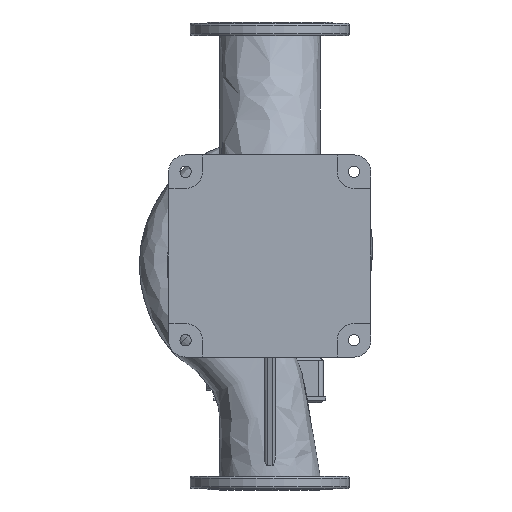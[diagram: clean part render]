
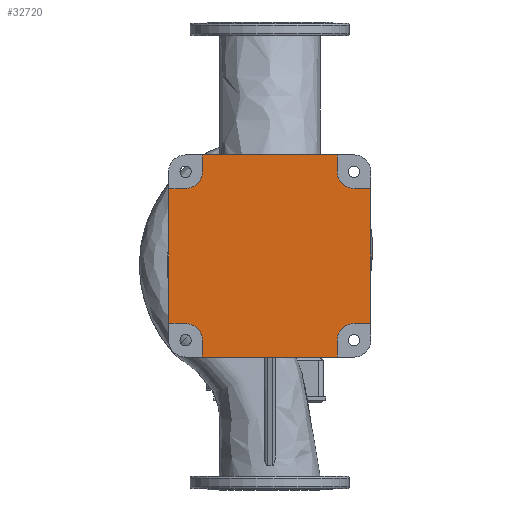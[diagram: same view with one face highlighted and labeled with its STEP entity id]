
A CAD part, front view. The second image highlights one B-rep face of the part: STEP entity #32720.
In plain terms, the highlighted planar face has unit normal (0, -1, 0).
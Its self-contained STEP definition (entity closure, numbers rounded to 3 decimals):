
#49 = CIRCLE ( 'NONE', #4899, 36. ) ;
#234 = DIRECTION ( 'NONE',  ( 0., 1., 0. ) ) ;
#629 = LINE ( 'NONE', #18377, #28319 ) ;
#681 = DIRECTION ( 'NONE',  ( 0., 1., 0. ) ) ;
#996 = EDGE_CURVE ( 'NONE', #7320, #15734, #23387, .T. ) ;
#2291 = LINE ( 'NONE', #2621, #23930 ) ;
#2389 = ORIENTED_EDGE ( 'NONE', *, *, #6621, .T. ) ;
#2430 = DIRECTION ( 'NONE',  ( 0., 0., 1. ) ) ;
#2621 = CARTESIAN_POINT ( 'NONE',  ( -180., -265., -144. ) ) ;
#3257 = ORIENTED_EDGE ( 'NONE', *, *, #11746, .T. ) ;
#3394 = CARTESIAN_POINT ( 'NONE',  ( 144., -265., -180. ) ) ;
#3505 = CARTESIAN_POINT ( 'NONE',  ( -144., -265., -180. ) ) ;
#3565 = DIRECTION ( 'NONE',  ( 0., 0., 1. ) ) ;
#3579 = CARTESIAN_POINT ( 'NONE',  ( -144., -265., -216. ) ) ;
#3980 = CARTESIAN_POINT ( 'NONE',  ( -180., -265., -180. ) ) ;
#3990 = VECTOR ( 'NONE', #14196, 1000. ) ;
#3994 = AXIS2_PLACEMENT_3D ( 'NONE', #30028, #22282, #17198 ) ;
#4230 = VECTOR ( 'NONE', #25239, 1000. ) ;
#4580 = DIRECTION ( 'NONE',  ( -1., 0., 0. ) ) ;
#4586 = ORIENTED_EDGE ( 'NONE', *, *, #22892, .T. ) ;
#4830 = AXIS2_PLACEMENT_3D ( 'NONE', #3980, #25083, #7154 ) ;
#4899 = AXIS2_PLACEMENT_3D ( 'NONE', #32465, #26740, #8649 ) ;
#5279 = CARTESIAN_POINT ( 'NONE',  ( -144., -265., -180. ) ) ;
#5547 = EDGE_CURVE ( 'NONE', #24412, #7320, #17183, .T. ) ;
#5743 = CARTESIAN_POINT ( 'NONE',  ( 144., -265., -216. ) ) ;
#6110 = CARTESIAN_POINT ( 'NONE',  ( -144., -265., 180. ) ) ;
#6621 = EDGE_CURVE ( 'NONE', #15734, #16981, #2291, .T. ) ;
#6664 = VECTOR ( 'NONE', #2430, 1000. ) ;
#6774 = CARTESIAN_POINT ( 'NONE',  ( 216., -265., -144. ) ) ;
#6802 = LINE ( 'NONE', #17605, #7011 ) ;
#7009 = CARTESIAN_POINT ( 'NONE',  ( -144., -265., 180. ) ) ;
#7011 = VECTOR ( 'NONE', #25379, 1000. ) ;
#7154 = DIRECTION ( 'NONE',  ( 0., 0., 1. ) ) ;
#7320 = VERTEX_POINT ( 'NONE', #16764 ) ;
#7614 = ORIENTED_EDGE ( 'NONE', *, *, #8466, .T. ) ;
#7741 = VERTEX_POINT ( 'NONE', #26860 ) ;
#8299 = VECTOR ( 'NONE', #9409, 1000. ) ;
#8403 = DIRECTION ( 'NONE',  ( 0., 0., 1. ) ) ;
#8466 = EDGE_CURVE ( 'NONE', #19867, #24412, #49, .T. ) ;
#8542 = LINE ( 'NONE', #25965, #31678 ) ;
#8649 = DIRECTION ( 'NONE',  ( 0., 0., 1. ) ) ;
#8723 = VERTEX_POINT ( 'NONE', #3394 ) ;
#8933 = CARTESIAN_POINT ( 'NONE',  ( 180., -265., -144. ) ) ;
#9359 = VERTEX_POINT ( 'NONE', #9721 ) ;
#9409 = DIRECTION ( 'NONE',  ( -1., 0., 0. ) ) ;
#9472 = ORIENTED_EDGE ( 'NONE', *, *, #23319, .T. ) ;
#9721 = CARTESIAN_POINT ( 'NONE',  ( -144., -265., 216. ) ) ;
#10086 = CARTESIAN_POINT ( 'NONE',  ( 180., -265., 144. ) ) ;
#10343 = ORIENTED_EDGE ( 'NONE', *, *, #24554, .T. ) ;
#10359 = VERTEX_POINT ( 'NONE', #8933 ) ;
#11177 = CARTESIAN_POINT ( 'NONE',  ( -180., -265., 144. ) ) ;
#11304 = ORIENTED_EDGE ( 'NONE', *, *, #15756, .T. ) ;
#11746 = EDGE_CURVE ( 'NONE', #16981, #27821, #28823, .T. ) ;
#11883 = ORIENTED_EDGE ( 'NONE', *, *, #5547, .T. ) ;
#12309 = EDGE_CURVE ( 'NONE', #9359, #19867, #30145, .T. ) ;
#12506 = ORIENTED_EDGE ( 'NONE', *, *, #14248, .T. ) ;
#12805 = DIRECTION ( 'NONE',  ( 0., 0., 1. ) ) ;
#14023 = CARTESIAN_POINT ( 'NONE',  ( 180., -265., 180. ) ) ;
#14196 = DIRECTION ( 'NONE',  ( 1., 0., 0. ) ) ;
#14248 = EDGE_CURVE ( 'NONE', #30617, #8723, #20169, .T. ) ;
#14664 = CARTESIAN_POINT ( 'NONE',  ( 144., -265., 180. ) ) ;
#14978 = EDGE_CURVE ( 'NONE', #10359, #19864, #21481, .T. ) ;
#15279 = CARTESIAN_POINT ( 'NONE',  ( -216., -265., -144. ) ) ;
#15734 = VERTEX_POINT ( 'NONE', #23383 ) ;
#15756 = EDGE_CURVE ( 'NONE', #8723, #10359, #27215, .T. ) ;
#15897 = ORIENTED_EDGE ( 'NONE', *, *, #21805, .T. ) ;
#15947 = VECTOR ( 'NONE', #4580, 1000. ) ;
#16334 = CARTESIAN_POINT ( 'NONE',  ( -180., -265., -144. ) ) ;
#16519 = VERTEX_POINT ( 'NONE', #26048 ) ;
#16528 = VERTEX_POINT ( 'NONE', #3579 ) ;
#16764 = CARTESIAN_POINT ( 'NONE',  ( -216., -265., 144. ) ) ;
#16861 = VERTEX_POINT ( 'NONE', #10086 ) ;
#16981 = VERTEX_POINT ( 'NONE', #16334 ) ;
#17032 = CARTESIAN_POINT ( 'NONE',  ( -180., -265., 144. ) ) ;
#17183 = LINE ( 'NONE', #17032, #8299 ) ;
#17198 = DIRECTION ( 'NONE',  ( 0., 0., 1. ) ) ;
#17605 = CARTESIAN_POINT ( 'NONE',  ( 180., -265., 144. ) ) ;
#17751 = LINE ( 'NONE', #19789, #15947 ) ;
#17788 = EDGE_CURVE ( 'NONE', #16528, #30617, #8542, .T. ) ;
#18025 = CARTESIAN_POINT ( 'NONE',  ( 144., -265., 180. ) ) ;
#18216 = ORIENTED_EDGE ( 'NONE', *, *, #17788, .T. ) ;
#18377 = CARTESIAN_POINT ( 'NONE',  ( 216., -265., 144. ) ) ;
#19595 = AXIS2_PLACEMENT_3D ( 'NONE', #14023, #681, #3565 ) ;
#19664 = VECTOR ( 'NONE', #21962, 1000. ) ;
#19789 = CARTESIAN_POINT ( 'NONE',  ( -144., -265., 216. ) ) ;
#19864 = VERTEX_POINT ( 'NONE', #6774 ) ;
#19867 = VERTEX_POINT ( 'NONE', #6110 ) ;
#20169 = LINE ( 'NONE', #30121, #6664 ) ;
#20812 = ORIENTED_EDGE ( 'NONE', *, *, #12309, .T. ) ;
#21135 = ORIENTED_EDGE ( 'NONE', *, *, #24942, .T. ) ;
#21481 = LINE ( 'NONE', #25120, #3990 ) ;
#21805 = EDGE_CURVE ( 'NONE', #32382, #16519, #27837, .T. ) ;
#21962 = DIRECTION ( 'NONE',  ( 0., 0., -1. ) ) ;
#22282 = DIRECTION ( 'NONE',  ( 0., 1., 0. ) ) ;
#22892 = EDGE_CURVE ( 'NONE', #27821, #16528, #28426, .T. ) ;
#23319 = EDGE_CURVE ( 'NONE', #19864, #7741, #629, .T. ) ;
#23383 = CARTESIAN_POINT ( 'NONE',  ( -216., -265., -144. ) ) ;
#23387 = LINE ( 'NONE', #15279, #4230 ) ;
#23556 = DIRECTION ( 'NONE',  ( 0., 0., 1. ) ) ;
#23930 = VECTOR ( 'NONE', #33214, 1000. ) ;
#24412 = VERTEX_POINT ( 'NONE', #11177 ) ;
#24554 = EDGE_CURVE ( 'NONE', #16519, #9359, #17751, .T. ) ;
#24591 = FACE_OUTER_BOUND ( 'NONE', #32624, .T. ) ;
#24942 = EDGE_CURVE ( 'NONE', #16861, #32382, #24962, .T. ) ;
#24956 = ORIENTED_EDGE ( 'NONE', *, *, #26578, .T. ) ;
#24962 = CIRCLE ( 'NONE', #19595, 36. ) ;
#25083 = DIRECTION ( 'NONE',  ( 0., 1., 0. ) ) ;
#25120 = CARTESIAN_POINT ( 'NONE',  ( 180., -265., -144. ) ) ;
#25239 = DIRECTION ( 'NONE',  ( 0., 0., -1. ) ) ;
#25253 = DIRECTION ( 'NONE',  ( 0., 0., -1. ) ) ;
#25379 = DIRECTION ( 'NONE',  ( -1., 0., 0. ) ) ;
#25965 = CARTESIAN_POINT ( 'NONE',  ( 144., -265., -216. ) ) ;
#26048 = CARTESIAN_POINT ( 'NONE',  ( 144., -265., 216. ) ) ;
#26130 = DIRECTION ( 'NONE',  ( 1., 0., 0. ) ) ;
#26578 = EDGE_CURVE ( 'NONE', #7741, #16861, #6802, .T. ) ;
#26740 = DIRECTION ( 'NONE',  ( 0., 1., 0. ) ) ;
#26860 = CARTESIAN_POINT ( 'NONE',  ( 216., -265., 144. ) ) ;
#27108 = ORIENTED_EDGE ( 'NONE', *, *, #14978, .T. ) ;
#27215 = CIRCLE ( 'NONE', #28296, 36. ) ;
#27821 = VERTEX_POINT ( 'NONE', #3505 ) ;
#27837 = LINE ( 'NONE', #14664, #30378 ) ;
#28296 = AXIS2_PLACEMENT_3D ( 'NONE', #31810, #234, #23556 ) ;
#28319 = VECTOR ( 'NONE', #8403, 1000. ) ;
#28426 = LINE ( 'NONE', #5279, #19664 ) ;
#28823 = CIRCLE ( 'NONE', #3994, 36. ) ;
#30028 = CARTESIAN_POINT ( 'NONE',  ( -180., -265., -180. ) ) ;
#30121 = CARTESIAN_POINT ( 'NONE',  ( 144., -265., -180. ) ) ;
#30145 = LINE ( 'NONE', #7009, #31457 ) ;
#30378 = VECTOR ( 'NONE', #12805, 1000. ) ;
#30617 = VERTEX_POINT ( 'NONE', #5743 ) ;
#31457 = VECTOR ( 'NONE', #25253, 1000. ) ;
#31678 = VECTOR ( 'NONE', #26130, 1000. ) ;
#31810 = CARTESIAN_POINT ( 'NONE',  ( 180., -265., -180. ) ) ;
#32192 = PLANE ( 'NONE',  #4830 ) ;
#32382 = VERTEX_POINT ( 'NONE', #18025 ) ;
#32465 = CARTESIAN_POINT ( 'NONE',  ( -180., -265., 180. ) ) ;
#32496 = ORIENTED_EDGE ( 'NONE', *, *, #996, .T. ) ;
#32624 = EDGE_LOOP ( 'NONE', ( #3257, #4586, #18216, #12506, #11304, #27108, #9472, #24956, #21135, #15897, #10343, #20812, #7614, #11883, #32496, #2389 ) ) ;
#32720 = ADVANCED_FACE ( 'NONE', ( #24591 ), #32192, .F. ) ;
#33214 = DIRECTION ( 'NONE',  ( 1., 0., 0. ) ) ;
